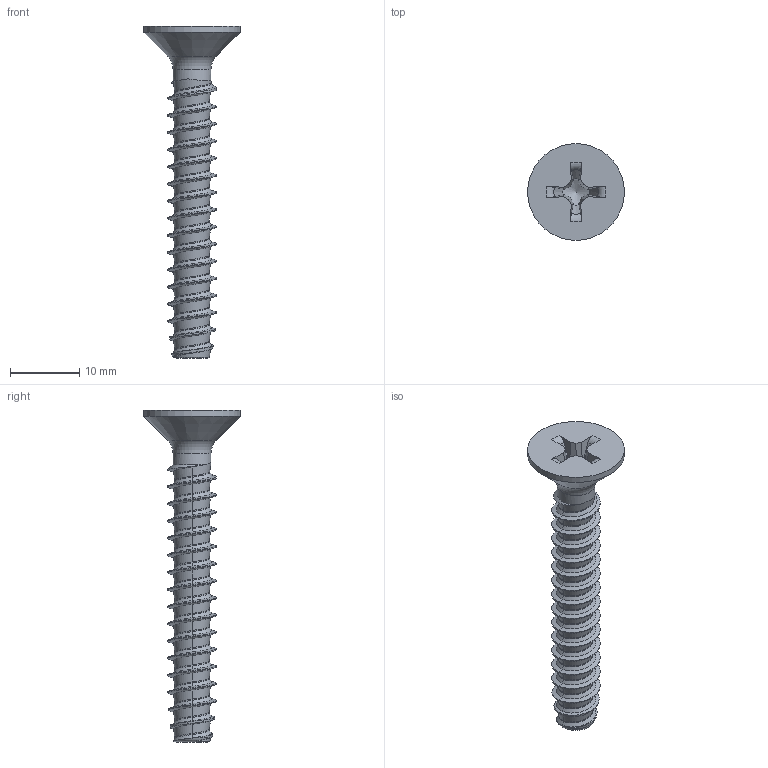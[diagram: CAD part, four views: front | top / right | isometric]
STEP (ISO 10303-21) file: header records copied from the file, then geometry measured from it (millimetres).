
FILE_DESCRIPTION(/* description */ (''),/* implementation_level */ '2;1');
FILE_NAME(/* name */ 'KN6041-STSplus-70x48-H3.step',/* time_stamp */ '2017-10-12T12:53:42+02:00',/* author */ (''),/* organization */ (''),/* preprocessor_version */ 'ST-DEVELOPER v16',/* originating_system */ 'SIEMENS PLM Software NX 10.0',/* authorisation */ '');
FILE_SCHEMA (('AUTOMOTIVE_DESIGN { 1 0 10303 214 3 1 1 1 }'));
Length unit declared in the file: millimetre
Products named in the file (1): KN6041-STSplus-70x48-H3
Bounding box: 14 x 14 x 48 mm (x, y, z)
Volume: 1441.2 mm3; surface area: 1557.3 mm2
Topology: 1 solids, 1 shells, 120 faces, 288 edges, 170 vertices
Faces by surface type: bspline 85, plane 18, cone 8, torus 6, cylinder 3
Full cylindrical faces by diameter (mm): 5.48 x1, 14 x1
Entity records: 8664 total; most frequent: CARTESIAN_POINT 6481, ORIENTED_EDGE 554, EDGE_CURVE 277, DIRECTION 222, VERTEX_POINT 166, B_SPLINE_CURVE_WITH_KNOTS 148, EDGE_LOOP 126, ADVANCED_FACE 120
